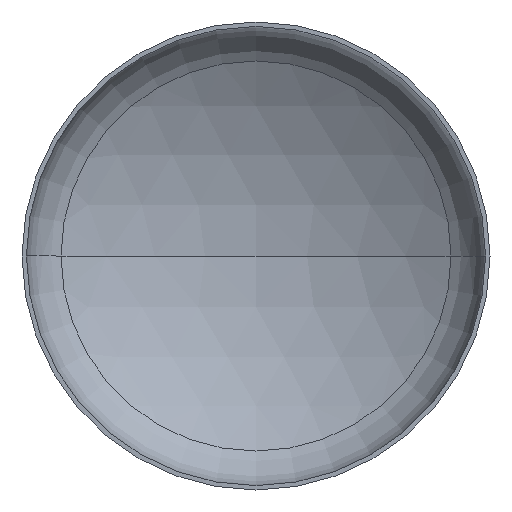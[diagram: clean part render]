
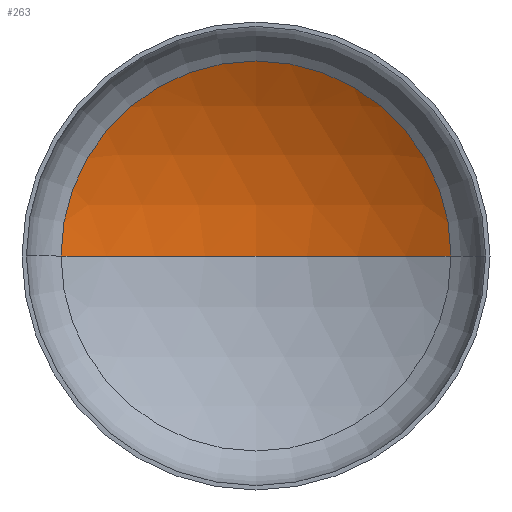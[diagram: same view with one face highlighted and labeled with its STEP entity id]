
A CAD part, front view. The second image highlights one B-rep face of the part: STEP entity #263.
In plain terms, the highlighted spherical face has radius 3040 mm.
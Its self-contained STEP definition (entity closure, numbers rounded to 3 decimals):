
#10 = EDGE_LOOP ( 'NONE', ( #87, #107, #81 ) ) ;
#31 = DIRECTION ( 'NONE',  ( 0., 0., -1. ) ) ;
#43 = VERTEX_POINT ( 'NONE', #300 ) ;
#50 = DIRECTION ( 'NONE',  ( -1., 0., 0. ) ) ;
#53 = VERTEX_POINT ( 'NONE', #261 ) ;
#54 = AXIS2_PLACEMENT_3D ( 'NONE', #197, #31, #146 ) ;
#67 = DIRECTION ( 'NONE',  ( 0., 0., -1. ) ) ;
#68 = AXIS2_PLACEMENT_3D ( 'NONE', #395, #400, #399 ) ;
#78 = AXIS2_PLACEMENT_3D ( 'NONE', #255, #253, #252 ) ;
#80 = AXIS2_PLACEMENT_3D ( 'NONE', #85, #67, #50 ) ;
#81 = ORIENTED_EDGE ( 'NONE', *, *, #192, .T. ) ;
#85 = CARTESIAN_POINT ( 'NONE',  ( 0., -1985.515, 0. ) ) ;
#87 = ORIENTED_EDGE ( 'NONE', *, *, #230, .F. ) ;
#107 = ORIENTED_EDGE ( 'NONE', *, *, #212, .T. ) ;
#146 = DIRECTION ( 'NONE',  ( -1., 0., 0. ) ) ;
#192 = EDGE_CURVE ( 'NONE', #43, #394, #241, .T. ) ;
#197 = CARTESIAN_POINT ( 'NONE',  ( 0., -1985.515, 0. ) ) ;
#212 = EDGE_CURVE ( 'NONE', #53, #43, #409, .T. ) ;
#230 = EDGE_CURVE ( 'NONE', #53, #394, #360, .T. ) ;
#241 = CIRCLE ( 'NONE', #78, 1583.772 ) ;
#252 = DIRECTION ( 'NONE',  ( 1., 0., 0. ) ) ;
#253 = DIRECTION ( 'NONE',  ( 0., -1., 0. ) ) ;
#255 = CARTESIAN_POINT ( 'NONE',  ( 0., 609.339, 0. ) ) ;
#261 = CARTESIAN_POINT ( 'NONE',  ( 0., 1054.485, 0. ) ) ;
#263 = ADVANCED_FACE ( 'NONE', ( #348 ), #293, .F. ) ;
#293 = SPHERICAL_SURFACE ( 'NONE', #54, 3040. ) ;
#300 = CARTESIAN_POINT ( 'NONE',  ( 1583.772, 609.339, 0. ) ) ;
#320 = CARTESIAN_POINT ( 'NONE',  ( -1583.772, 609.339, 0. ) ) ;
#348 = FACE_OUTER_BOUND ( 'NONE', #10, .T. ) ;
#360 = CIRCLE ( 'NONE', #68, 3040. ) ;
#394 = VERTEX_POINT ( 'NONE', #320 ) ;
#395 = CARTESIAN_POINT ( 'NONE',  ( 0., -1985.515, 0. ) ) ;
#399 = DIRECTION ( 'NONE',  ( 1., 0., 0. ) ) ;
#400 = DIRECTION ( 'NONE',  ( 0., 0., 1. ) ) ;
#409 = CIRCLE ( 'NONE', #80, 3040. ) ;
